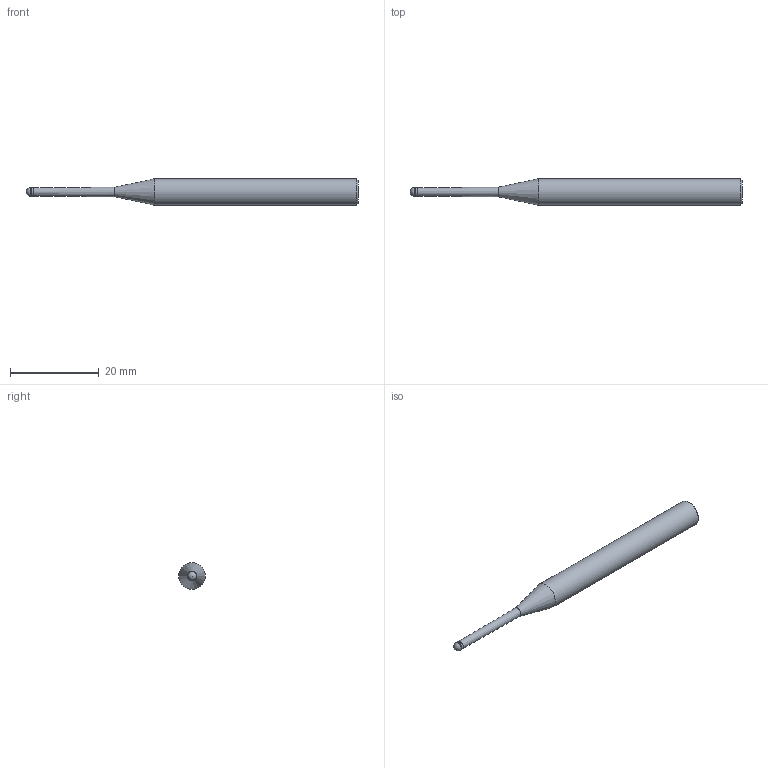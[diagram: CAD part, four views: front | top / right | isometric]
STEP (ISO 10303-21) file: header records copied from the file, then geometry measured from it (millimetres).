
FILE_DESCRIPTION(/* description */ (''),/* implementation_level */ '2;1');
FILE_NAME(/* name */ 'HGXPB2020-20-T0.4 0675.stp',/* time_stamp */ '2026-01-22T09:03:42+08:00',/* author */ (''),/* organization */ (''),/* preprocessor_version */ 'ST-DEVELOPER v16',/* originating_system */ 'SIEMENS PLM Software NX 10.0',/* authorisation */ '');
FILE_SCHEMA (('CONFIG_CONTROL_DESIGN'));
Length unit declared in the file: millimetre
Products named in the file (1): HGXPB2020-20-T0.4 0675_x_t
Bounding box: 75 x 6 x 6 mm (x, y, z)
Volume: 1488.7 mm3; surface area: 1137 mm2
Topology: 1 solids, 1 shells, 9 faces, 17 edges, 10 vertices
Faces by surface type: cylinder 3, cone 3, plane 2, sphere 1
Full cylindrical faces by diameter (mm): 1.9 x1, 2 x1, 6 x1
Entity records: 258 total; most frequent: DIRECTION 36, CARTESIAN_POINT 26, AXIS2_PLACEMENT_3D 18, EDGE_LOOP 16, ORIENTED_EDGE 16, FACE_BOUND 14, ADVANCED_FACE 9, VERTEX_POINT 8
